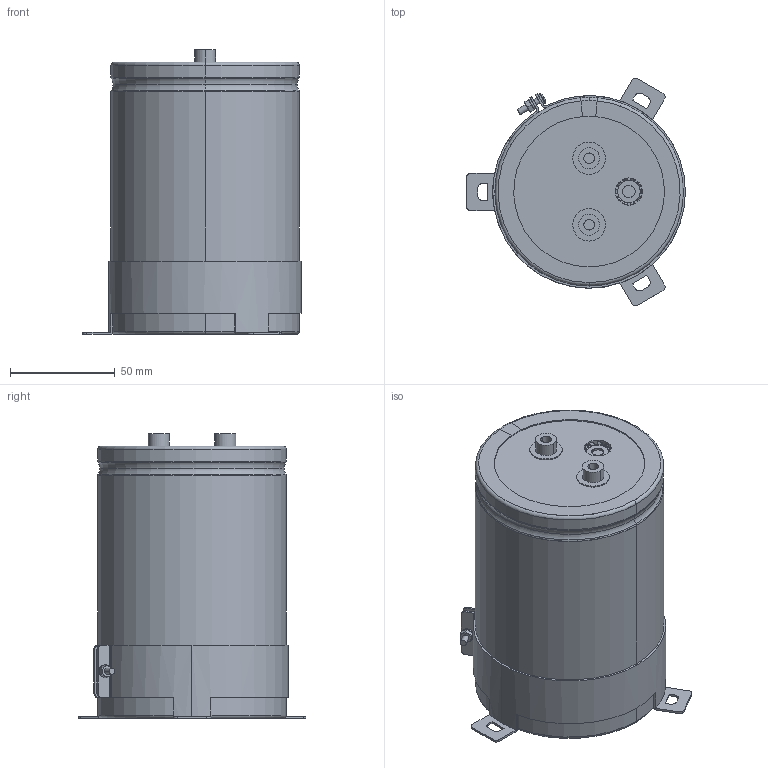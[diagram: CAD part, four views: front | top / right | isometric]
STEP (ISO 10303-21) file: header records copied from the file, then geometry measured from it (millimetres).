
FILE_DESCRIPTION(('STEP AP214'),'1');
FILE_NAME('90x130_Screw.stp','2022-03-14T09:01:51',(' '),(' '),'Spatial InterOp 3D',' ',' ');
FILE_SCHEMA(('AUTOMOTIVE_DESIGN { 1 0 10303 214 1 1 1 1 }'));
Length unit declared in the file: metre
Products named in the file (10): 90x130_Screw; Component1; Component2; Component3; Component4; Component5; Component6; Component7; Component8; Component9
Assembly tree (9 placements, depth 2):
  90x130_Screw
    Component1
    Component2
    Component3
    Component4
    Component5
    Component6
    Component7
    Component8
    Component9
Bounding box: 104.5 x 108.86 x 136 mm (x, y, z)
Volume: 829584.6 mm3; surface area: 149845.6 mm2
Topology: 9 solids, 9 shells, 352 faces, 873 edges, 551 vertices
Faces by surface type: plane 112, cylinder 110, torus 90, cone 38, sphere 2
Entity records: 11474 total; most frequent: DIRECTION 2126, CARTESIAN_POINT 1918, ORIENTED_EDGE 1746, AXIS2_PLACEMENT_3D 919, EDGE_CURVE 873, VERTEX_POINT 551, CIRCLE 511, EDGE_LOOP 380
